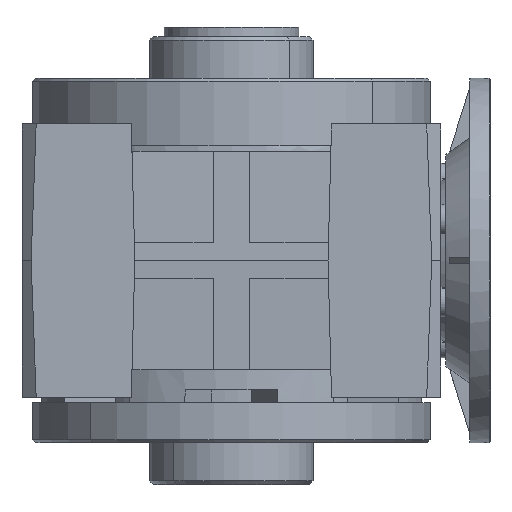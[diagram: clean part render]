
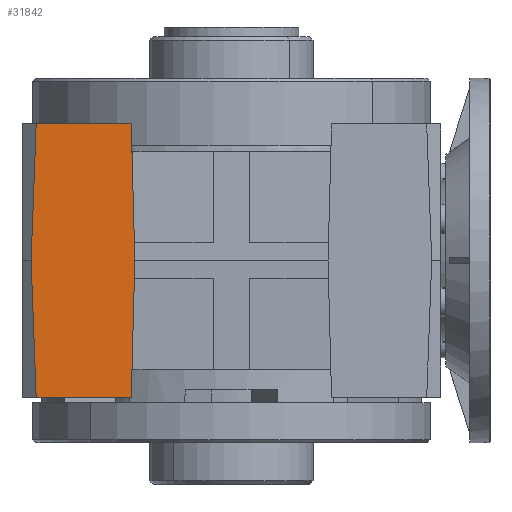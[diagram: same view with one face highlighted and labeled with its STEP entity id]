
A CAD part, front view. The second image highlights one B-rep face of the part: STEP entity #31842.
In plain terms, the highlighted planar face has unit normal (0, -1, 0).
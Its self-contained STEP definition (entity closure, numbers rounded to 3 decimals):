
#190 = VECTOR ( 'NONE', #19649, 1000. ) ;
#536 = VECTOR ( 'NONE', #48743, 1000. ) ;
#2281 = ORIENTED_EDGE ( 'NONE', *, *, #31958, .F. ) ;
#4446 = EDGE_CURVE ( 'NONE', #4716, #17884, #31757, .T. ) ;
#4716 = VERTEX_POINT ( 'NONE', #40984 ) ;
#5466 = ORIENTED_EDGE ( 'NONE', *, *, #49943, .T. ) ;
#5488 = LINE ( 'NONE', #13744, #23214 ) ;
#8451 = ORIENTED_EDGE ( 'NONE', *, *, #4446, .F. ) ;
#9929 = ORIENTED_EDGE ( 'NONE', *, *, #42515, .F. ) ;
#11115 = ORIENTED_EDGE ( 'NONE', *, *, #44408, .F. ) ;
#11144 = VERTEX_POINT ( 'NONE', #16931 ) ;
#11737 = PLANE ( 'NONE',  #32559 ) ;
#11978 = DIRECTION ( 'NONE',  ( 0., -1., 0. ) ) ;
#12504 = CARTESIAN_POINT ( 'NONE',  ( -107.233, -165., -74.712 ) ) ;
#12914 = LINE ( 'NONE', #35826, #26144 ) ;
#13098 = CARTESIAN_POINT ( 'NONE',  ( -110., -165., 0. ) ) ;
#13511 = VERTEX_POINT ( 'NONE', #13098 ) ;
#13744 = CARTESIAN_POINT ( 'NONE',  ( -115., -165., -75. ) ) ;
#15033 = LINE ( 'NONE', #22743, #45058 ) ;
#16714 = CARTESIAN_POINT ( 'NONE',  ( -107.223, -165., 75. ) ) ;
#16931 = CARTESIAN_POINT ( 'NONE',  ( -107.223, -165., -75. ) ) ;
#17884 = VERTEX_POINT ( 'NONE', #34707 ) ;
#19649 = DIRECTION ( 'NONE',  ( -0.026, 0., -1. ) ) ;
#20273 = DIRECTION ( 'NONE',  ( 1., 0., 0. ) ) ;
#21951 = DIRECTION ( 'NONE',  ( 1., 0., 0. ) ) ;
#22743 = CARTESIAN_POINT ( 'NONE',  ( -55., -165., 75. ) ) ;
#23214 = VECTOR ( 'NONE', #21951, 1000. ) ;
#26144 = VECTOR ( 'NONE', #28611, 1000. ) ;
#27101 = EDGE_CURVE ( 'NONE', #28735, #13511, #12914, .T. ) ;
#27477 = VERTEX_POINT ( 'NONE', #30114 ) ;
#28611 = DIRECTION ( 'NONE',  ( -0.037, 0., -0.999 ) ) ;
#28735 = VERTEX_POINT ( 'NONE', #16714 ) ;
#30114 = CARTESIAN_POINT ( 'NONE',  ( -55., -165., 75. ) ) ;
#30942 = VECTOR ( 'NONE', #20273, 1000. ) ;
#31757 = LINE ( 'NONE', #50771, #190 ) ;
#31842 = ADVANCED_FACE ( 'NONE', ( #50564 ), #11737, .T. ) ;
#31958 = EDGE_CURVE ( 'NONE', #11144, #13511, #32830, .T. ) ;
#32559 = AXIS2_PLACEMENT_3D ( 'NONE', #43099, #11978, #47473 ) ;
#32830 = LINE ( 'NONE', #12504, #536 ) ;
#34707 = CARTESIAN_POINT ( 'NONE',  ( -55., -165., -75. ) ) ;
#35826 = CARTESIAN_POINT ( 'NONE',  ( -112.78, -165., -75.082 ) ) ;
#37855 = LINE ( 'NONE', #50440, #30942 ) ;
#40984 = CARTESIAN_POINT ( 'NONE',  ( -53.036, -165., 0. ) ) ;
#42515 = EDGE_CURVE ( 'NONE', #28735, #27477, #37855, .T. ) ;
#43099 = CARTESIAN_POINT ( 'NONE',  ( -115., -165., -75. ) ) ;
#44408 = EDGE_CURVE ( 'NONE', #27477, #4716, #15033, .T. ) ;
#45058 = VECTOR ( 'NONE', #46920, 1000. ) ;
#46474 = EDGE_LOOP ( 'NONE', ( #2281, #5466, #8451, #11115, #9929, #47361 ) ) ;
#46920 = DIRECTION ( 'NONE',  ( 0.026, 0., -1. ) ) ;
#47361 = ORIENTED_EDGE ( 'NONE', *, *, #27101, .T. ) ;
#47473 = DIRECTION ( 'NONE',  ( 0., 0., -1. ) ) ;
#48743 = DIRECTION ( 'NONE',  ( -0.037, 0., 0.999 ) ) ;
#49943 = EDGE_CURVE ( 'NONE', #11144, #17884, #5488, .T. ) ;
#50440 = CARTESIAN_POINT ( 'NONE',  ( -115., -165., 75. ) ) ;
#50564 = FACE_OUTER_BOUND ( 'NONE', #46474, .T. ) ;
#50771 = CARTESIAN_POINT ( 'NONE',  ( -55., -165., -75. ) ) ;
